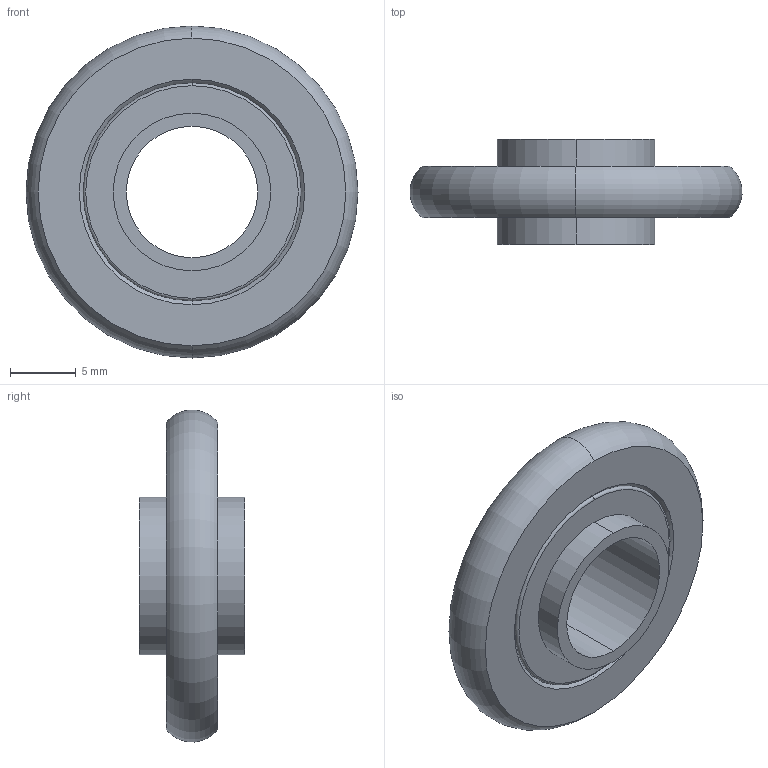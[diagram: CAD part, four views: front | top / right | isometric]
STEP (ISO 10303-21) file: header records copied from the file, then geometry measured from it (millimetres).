
FILE_DESCRIPTION((''),'2;1');
FILE_NAME('18201-SW0001','2016-03-04T',('l0100062'),('Copyright by Leybold GmbH'),'PRO/ENGINEER BY PARAMETRIC TECHNOLOGY CORPORATION, 2015280','PRO/ENGINEER BY PARAMETRIC TECHNOLOGY CORPORATION, 2015280','');
FILE_SCHEMA(('AUTOMOTIVE_DESIGN { 1 0 10303 214 1 1 1 1 }'));
Length unit declared in the file: millimetre
Products named in the file (1): 18201-DAO_SW0001
Bounding box: 25.28 x 8 x 25.28 mm (x, y, z)
Volume: 1704.9 mm3; surface area: 1503.3 mm2
Topology: 1 solids, 1 shells, 22 faces, 44 edges, 28 vertices
Faces by surface type: torus 10, cylinder 6, plane 6
Entity records: 848 total; most frequent: DIRECTION 126, CARTESIAN_POINT 96, ORIENTED_EDGE 88, AXIS2_PLACEMENT_3D 60, COLOUR_RGB 46, EDGE_CURVE 44, CIRCLE 38, VERTEX_POINT 28
